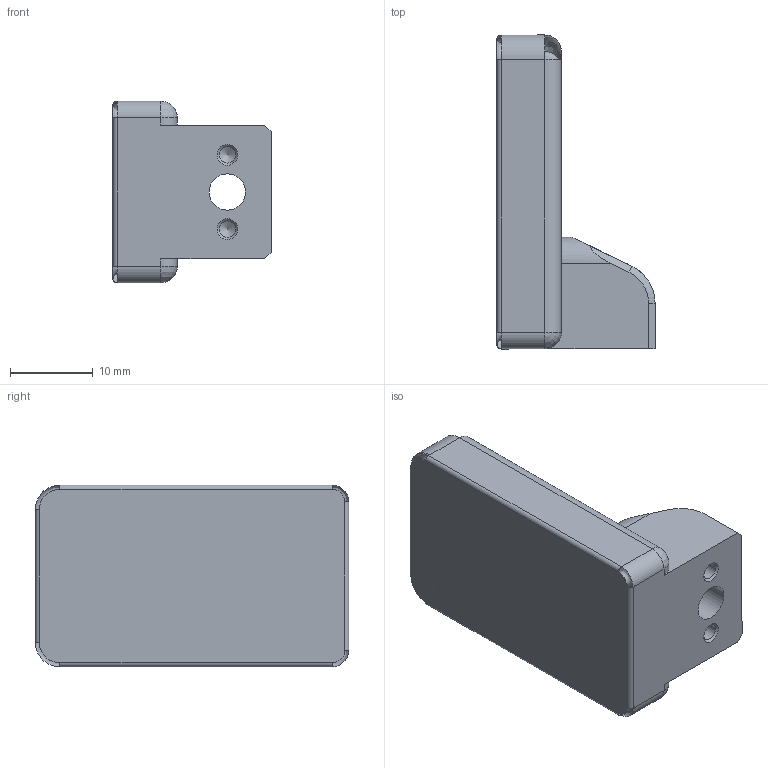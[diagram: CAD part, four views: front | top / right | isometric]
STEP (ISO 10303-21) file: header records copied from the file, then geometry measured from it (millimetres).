
FILE_DESCRIPTION(('sldprt2step conversion of Parasolid XT B-rep'),'2;1');
FILE_NAME('2F-85 pad.SLDPRT','',(''),(''),'sldprt2step','','');
FILE_SCHEMA(('AUTOMOTIVE_DESIGN { 1 0 10303 214 1 1 1 1 }'));
Length unit declared in the file: millimetre
Products named in the file (1): 2F-85 pad
Bounding box: 19.16 x 38 x 22 mm (x, y, z)
Volume: 7695.9 mm3; surface area: 3545.2 mm2
Topology: 1 solids, 1 shells, 50 faces, 134 edges, 78 vertices
Faces by surface type: cylinder 20, plane 16, revolution 8, cone 6
Full cylindrical faces by diameter (mm): 2 x2, 4.4 x1, 9 x1
Entity records: 1578 total; most frequent: CARTESIAN_POINT 421, DIRECTION 256, ORIENTED_EDGE 214, EDGE_CURVE 107, AXIS2_PLACEMENT_3D 97, VERTEX_POINT 69, EDGE_LOOP 60, VECTOR 54
